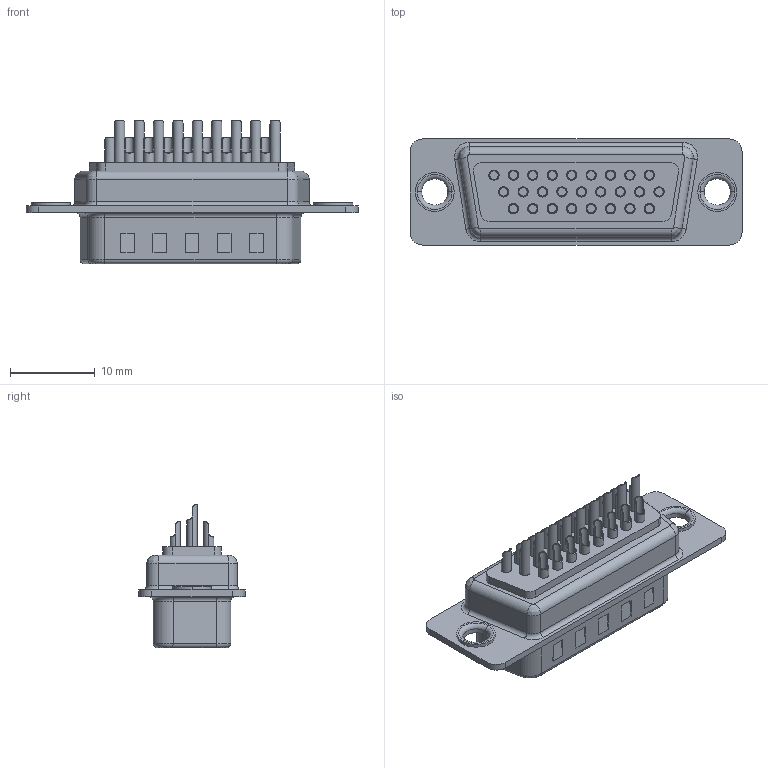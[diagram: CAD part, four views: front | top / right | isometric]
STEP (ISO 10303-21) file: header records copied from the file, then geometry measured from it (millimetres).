
FILE_DESCRIPTION((''),'2;1');
FILE_NAME('3_ASM','2023-07-11T10:00:00',('tang'),(''),'CREO PARAMETRIC BY PTC INC, 2021404','CREO PARAMETRIC BY PTC INC, 2021404','');
FILE_SCHEMA(('CONFIG_CONTROL_DESIGN'));
Length unit declared in the file: millimetre
Products named in the file (1): 3_ASM
Bounding box: 39.14 x 12.5 x 16.9 mm (x, y, z)
Volume: 1932.7 mm3; surface area: 2981.4 mm2
Topology: 1 solids, 3 shells, 629 faces, 1546 edges, 948 vertices
Faces by surface type: cylinder 332, plane 221, sphere 52, torus 20, bspline 4
Entity records: 19938 total; most frequent: CARTESIAN_POINT 5355, DIRECTION 3046, ORIENTED_EDGE 2988, EDGE_CURVE 1494, AXIS2_PLACEMENT_3D 1165, VERTEX_POINT 948, VECTOR 716, LINE 716
